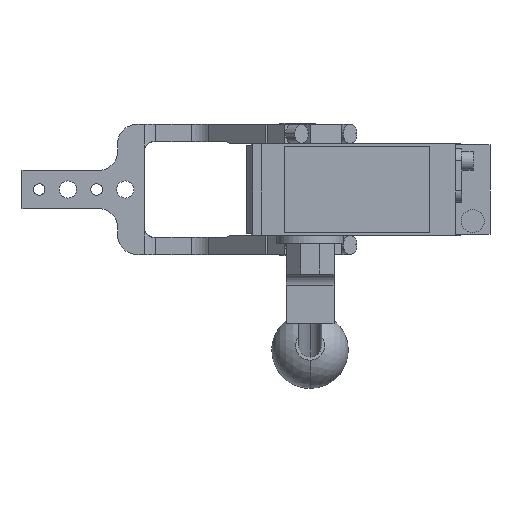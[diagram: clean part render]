
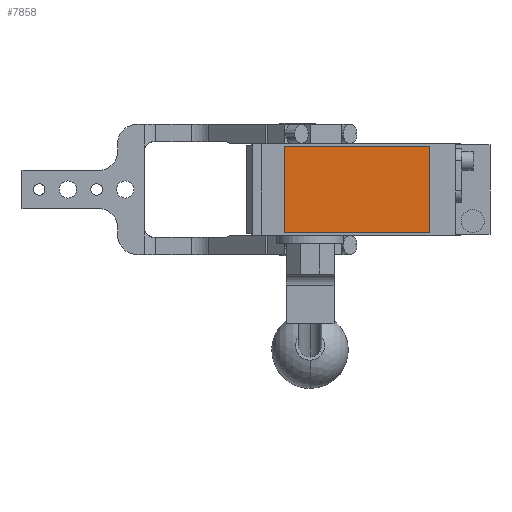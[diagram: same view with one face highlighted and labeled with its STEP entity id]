
A CAD part, front view. The second image highlights one B-rep face of the part: STEP entity #7858.
In plain terms, the highlighted planar face has unit normal (0, -1, 0).
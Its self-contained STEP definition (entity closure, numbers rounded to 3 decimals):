
#163 = CARTESIAN_POINT ( 'NONE',  ( -7., -280.5, 22.5 ) ) ;
#615 = EDGE_CURVE ( 'NONE', #8323, #14753, #14808, .T. ) ;
#1110 = VECTOR ( 'NONE', #10532, 1000. ) ;
#1469 = CARTESIAN_POINT ( 'NONE',  ( -7., -280.5, -22.5 ) ) ;
#1479 = VERTEX_POINT ( 'NONE', #2409 ) ;
#1936 = VECTOR ( 'NONE', #4803, 1000. ) ;
#2409 = CARTESIAN_POINT ( 'NONE',  ( -7., -280.5, 22.5 ) ) ;
#2476 = PLANE ( 'NONE',  #3027 ) ;
#3027 = AXIS2_PLACEMENT_3D ( 'NONE', #6987, #12909, #3652 ) ;
#3241 = VECTOR ( 'NONE', #9152, 1000. ) ;
#3503 = CARTESIAN_POINT ( 'NONE',  ( 69., -280.5, -22.5 ) ) ;
#3652 = DIRECTION ( 'NONE',  ( 0., 0., -1. ) ) ;
#3795 = FACE_OUTER_BOUND ( 'NONE', #14574, .T. ) ;
#4589 = LINE ( 'NONE', #8069, #1110 ) ;
#4803 = DIRECTION ( 'NONE',  ( -1., 0., 0. ) ) ;
#6420 = ORIENTED_EDGE ( 'NONE', *, *, #615, .T. ) ;
#6472 = VECTOR ( 'NONE', #11642, 1000. ) ;
#6499 = EDGE_CURVE ( 'NONE', #8019, #1479, #10531, .T. ) ;
#6951 = ORIENTED_EDGE ( 'NONE', *, *, #14244, .T. ) ;
#6987 = CARTESIAN_POINT ( 'NONE',  ( 0., -280.5, 0. ) ) ;
#7502 = ORIENTED_EDGE ( 'NONE', *, *, #14774, .T. ) ;
#7858 = ADVANCED_FACE ( 'NONE', ( #3795 ), #2476, .T. ) ;
#8019 = VERTEX_POINT ( 'NONE', #11622 ) ;
#8069 = CARTESIAN_POINT ( 'NONE',  ( -7., -280.5, 22.5 ) ) ;
#8323 = VERTEX_POINT ( 'NONE', #1469 ) ;
#9152 = DIRECTION ( 'NONE',  ( 1., 0., 0. ) ) ;
#10126 = CARTESIAN_POINT ( 'NONE',  ( -7., -280.5, -22.5 ) ) ;
#10531 = LINE ( 'NONE', #163, #1936 ) ;
#10532 = DIRECTION ( 'NONE',  ( 0., 0., -1. ) ) ;
#11358 = CARTESIAN_POINT ( 'NONE',  ( 69., -280.5, 22.5 ) ) ;
#11463 = ORIENTED_EDGE ( 'NONE', *, *, #6499, .T. ) ;
#11622 = CARTESIAN_POINT ( 'NONE',  ( 69., -280.5, 22.5 ) ) ;
#11642 = DIRECTION ( 'NONE',  ( 0., 0., 1. ) ) ;
#12909 = DIRECTION ( 'NONE',  ( 0., -1., 0. ) ) ;
#13591 = LINE ( 'NONE', #11358, #6472 ) ;
#14244 = EDGE_CURVE ( 'NONE', #14753, #8019, #13591, .T. ) ;
#14574 = EDGE_LOOP ( 'NONE', ( #7502, #6420, #6951, #11463 ) ) ;
#14753 = VERTEX_POINT ( 'NONE', #3503 ) ;
#14774 = EDGE_CURVE ( 'NONE', #1479, #8323, #4589, .T. ) ;
#14808 = LINE ( 'NONE', #10126, #3241 ) ;
